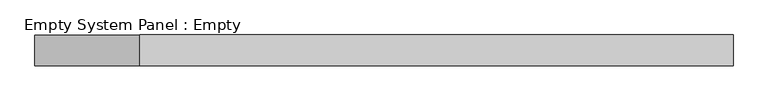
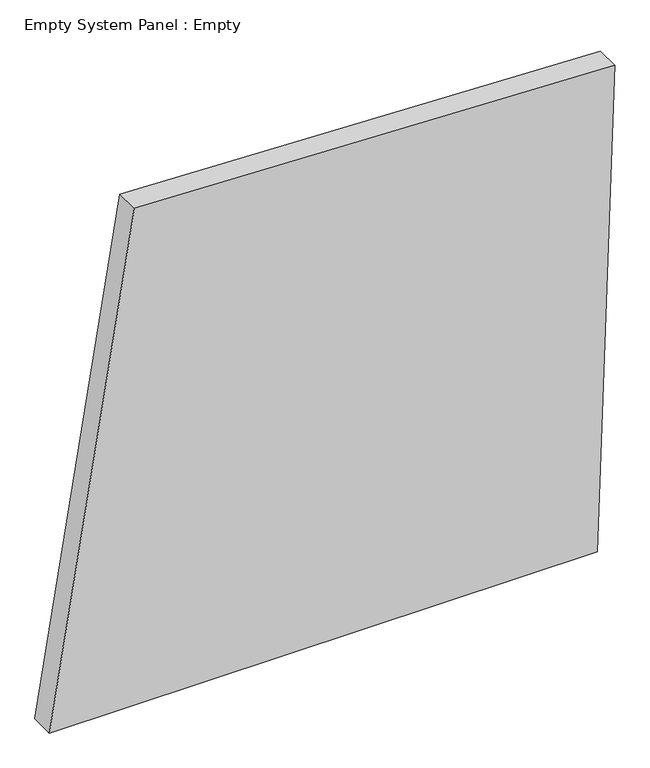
"""IFC4 building model written with IfcOpenShell, lengths in millimetres: plate geometry, Empty System Panel : Empty."""

from ifc_helpers import new_model, si_unit, frame, origin, place, context, project, spatial, polyline, outline, extrude, source, transform, mapped, element, save


def empty_system_panel_empty_84171cab(model_context):
    return source(origin(), model_context, "Body", "SweptSolid", [
        extrude(outline(polyline([(0.0, -1155.8527489), (0.0, 1084.5361077), (2076.0291875, 1155.8527489), (2146.1325497, -808.2217502), (0.0, -1155.8527489)])), frame((0.0, -50.8, 0.0), z_axis=(0.0, 1.0, 0.0), x_axis=(0.0, 0.0, 1.0)), (0.0, 0.0, 1.0), 101.6),
    ])


if __name__ == "__main__":
    model = new_model("IFC4")
    model_context = context("Model", 3, world=origin())
    ifc_project = project(units=[si_unit("LENGTHUNIT", "METRE", prefix="MILLI")], contexts=[model_context])
    site = spatial("IfcSite", under=ifc_project)
    building = spatial("IfcBuilding", under=site)
    placement = place(None, origin())
    empty_system_panel_empty_shape = empty_system_panel_empty_84171cab(model_context)
    element("IfcPlate", 1, ObjectType="Empty System Panel : Empty", at=placement, inside=building, context=model_context, shape_type="MappedRepresentation", body=[
        mapped(empty_system_panel_empty_shape, transform((0.0, 0.0, 0.0), x_axis=(1.0, 0.0, 0.0), y_axis=(0.0, 1.0, 0.0), z_axis=(0.0, 0.0, 1.0))),
    ])
    save(model, "model.ifc")
